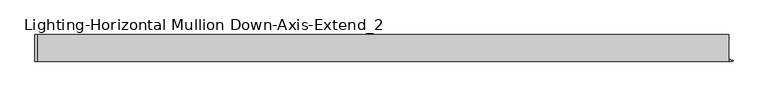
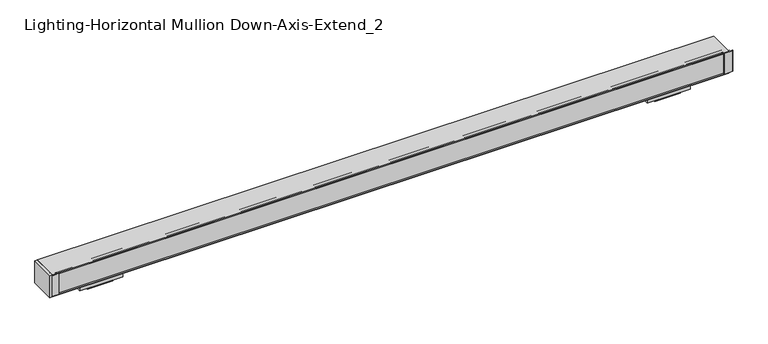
"""IFC4 building model written with IfcOpenShell, lengths in millimetres: light fixture geometry, Lighting-Horizontal Mullion Down-Axis-Extend_2 : EX2WD-900-80-35-SO-4."""

from ifc_helpers import new_model, si_unit, point, frame, frame_2d, origin, place, context, project, spatial, polyline, circle_curve, trimmed, segment, composite_curve, outline, extrude, faceted_brep, source, transform, mapped, element, save


def lighting_horizontal_mullion_down_axis_extend_2_9a33a1cc(model_context):
    return source(origin(), model_context, "Body", "SolidModel", [
        faceted_brep([(-723.98636, 69.4002107, 31.75), (-723.98636, 20.6375, 31.75), (-723.98636, 20.6375, 6.35), (-723.98636, 69.4002107, 6.35), (-842.68564, 69.4002107, 31.75), (-842.68564, 69.4002107, 6.35), (-842.68564, 20.6375, 6.35), (-842.68564, 20.6375, 31.75), (-818.4701591, 64.0180553, 0.0), (-818.4701591, 64.0180553, 6.35), (-748.2018409, 64.0180553, 6.35), (-748.2018409, 64.0180553, 0.0), (-818.4701591, 26.0196553, 0.0), (-748.2018409, 26.0196553, 0.0), (-818.4701591, 26.0196553, 6.35), (-748.2018409, 26.0196553, 6.35)], [[[0, 1, 2, 3]], [[4, 5, 6, 7]], [[8, 9, 10, 11]], [[12, 8, 11, 13]], [[14, 12, 13, 15]], [[1, 0, 4, 7]], [[0, 3, 5, 4]], [[6, 5, 3, 2], [14, 15, 10, 9]], [[6, 2, 1, 7]], [[14, 9, 8, 12]], [[10, 15, 13, 11]]]),
        faceted_brep([(830.50634, 69.4002107, 31.75), (830.50634, 20.6375, 31.75), (830.50634, 20.6375, 6.35), (830.50634, 69.4002107, 6.35), (711.80706, 69.4002107, 31.75), (711.80706, 69.4002107, 6.35), (711.80706, 20.6375, 6.35), (711.80706, 20.6375, 31.75), (736.0225409, 64.0180553, 0.0), (736.0225409, 64.0180553, 6.35), (806.2908591, 64.0180553, 6.35), (806.2908591, 64.0180553, 0.0), (736.0225409, 26.0196553, 0.0), (806.2908591, 26.0196553, 0.0), (736.0225409, 26.0196553, 6.35), (806.2908591, 26.0196553, 6.35)], [[[0, 1, 2, 3]], [[4, 5, 6, 7]], [[8, 9, 10, 11]], [[12, 8, 11, 13]], [[14, 12, 13, 15]], [[1, 0, 4, 7]], [[0, 3, 5, 4]], [[6, 5, 3, 2], [14, 15, 10, 9]], [[6, 2, 1, 7]], [[14, 9, 8, 12]], [[10, 15, 13, 11]]]),
        extrude(outline(polyline([(935.6598, 1.1017139), (934.7352563, 0.0), (912.3781437, 0.0), (911.4536, 1.1017139), (911.4536, 2.57175), (912.24735, 2.57175), (912.24735, 1.778), (918.718, 1.778), (918.718, 4.5842019), (928.3954, 4.5842019), (928.3954, 1.778), (934.86605, 1.778), (934.86605, 2.57175), (935.6598, 2.57175), (935.6598, 1.1017139)])), frame((0.0, 0.0, 33.782), z_axis=(0.0, 0.0, 1.0), x_axis=(1.0, 0.0, 0.0)), (0.0, 0.0, 1.0), 59.944),
        extrude(outline(polyline([(-911.0726, 1.1017139), (-911.9971437, 0.0), (-929.386, 0.0), (-929.386, 4.5842019), (-918.718, 4.5842019), (-918.718, 1.778), (-911.86635, 1.778), (-911.86635, 2.57175), (-911.0726, 2.57175), (-911.0726, 1.1017139)])), frame((0.0, 0.0, 33.782), z_axis=(0.0, 0.0, 1.0), x_axis=(1.0, 0.0, 0.0)), (0.0, 0.0, 1.0), 59.944),
        extrude(outline(polyline([(-929.386, 71.4375), (-929.386, 0.0), (-935.736, 0.0), (-935.736, 71.4375), (-929.386, 71.4375)])), frame((0.0, 0.0, 31.75), z_axis=(0.0, 0.0, 1.0), x_axis=(1.0, 0.0, 0.0)), (0.0, 0.0, 1.0), 64.008),
        extrude(outline(composite_curve([segment(polyline([(4.8895009, 87.9267262), (4.8895009, 39.5812738), (11.3521263, 39.2425819)]), True, "CONTINUOUS"), segment(trimmed(circle_curve(frame_2d((14.351, 36.4998)), 4.064), [point((11.3521263, 39.2425819))], [point((17.9580097, 38.3721186))], False, "CARTESIAN"), True, "CONTINUOUS"), segment(trimmed(circle_curve(frame_2d((17.1691543, 41.604656)), 3.3274001), [point((17.9580097, 38.3721186))], [point((19.4557425, 39.1874044))], True, "CARTESIAN"), True, "CONTINUOUS"), segment(trimmed(circle_curve(frame_2d((12.4214292, 46.6236823)), 10.2362001), [point((19.4557425, 39.1874044))], [point((20.6551445, 40.5420934))], True, "CARTESIAN"), True, "CONTINUOUS"), segment(trimmed(circle_curve(frame_2d((21.3191538, 40.0516427)), 0.8255), [point((20.6551445, 40.5420934))], [point((21.9831631, 39.561192))], False, "CARTESIAN"), True, "CONTINUOUS"), segment(trimmed(circle_curve(frame_2d((12.4214283, 46.6236831)), 11.8872013), [point((21.9831631, 39.561192))], [point((20.5903092, 37.9880048))], False, "CARTESIAN"), True, "CONTINUOUS"), segment(trimmed(circle_curve(frame_2d((17.1691543, 41.604656)), 4.9784001), [point((20.5903092, 37.9880048))], [point((16.75974, 36.6431193))], False, "CARTESIAN"), True, "CONTINUOUS"), segment(trimmed(circle_curve(frame_2d((14.351, 36.4998)), 2.413), [point((16.75974, 36.6431193))], [point((12.7205342, 38.2786059))], True, "CARTESIAN"), True, "CONTINUOUS"), segment(trimmed(circle_curve(frame_2d((11.0042544, 40.1510331)), 2.54), [point((12.7205342, 38.2786059))], [point((10.8713211, 37.6145141))], False, "CARTESIAN"), True, "CONTINUOUS"), segment(polyline([(10.8713211, 37.6145141), (4.8895009, 37.928008), (4.8895009, 34.925), (2.9845, 34.925), (2.9845, 92.583), (4.8895009, 92.583), (4.8895009, 89.579992), (10.8713211, 89.8934859)]), True, "CONTINUOUS"), segment(trimmed(circle_curve(frame_2d((11.0042544, 87.3569669)), 2.54), [point((10.8713211, 89.8934859))], [point((12.7205342, 89.2293941))], False, "CARTESIAN"), True, "CONTINUOUS"), segment(trimmed(circle_curve(frame_2d((14.351, 91.0082)), 2.413), [point((12.7205342, 89.2293941))], [point((16.75974, 90.8648807))], True, "CARTESIAN"), True, "CONTINUOUS"), segment(trimmed(circle_curve(frame_2d((17.1691543, 85.903344)), 4.9784001), [point((16.75974, 90.8648807))], [point((20.5903092, 89.5199952))], False, "CARTESIAN"), True, "CONTINUOUS"), segment(trimmed(circle_curve(frame_2d((12.4214283, 80.8843169)), 11.8872013), [point((20.5903092, 89.5199952))], [point((21.9831631, 87.946808))], False, "CARTESIAN"), True, "CONTINUOUS"), segment(trimmed(circle_curve(frame_2d((21.3191538, 87.4563573)), 0.8255), [point((21.9831631, 87.946808))], [point((20.6551445, 86.9659066))], False, "CARTESIAN"), True, "CONTINUOUS"), segment(trimmed(circle_curve(frame_2d((12.4214292, 80.8843177)), 10.2362001), [point((20.6551445, 86.9659066))], [point((19.4557425, 88.3205956))], True, "CARTESIAN"), True, "CONTINUOUS"), segment(trimmed(circle_curve(frame_2d((17.1691543, 85.903344)), 3.3274001), [point((19.4557425, 88.3205956))], [point((17.9580097, 89.1358814))], True, "CARTESIAN"), True, "CONTINUOUS"), segment(trimmed(circle_curve(frame_2d((14.351, 91.0082)), 4.064), [point((17.9580097, 89.1358814))], [point((11.3521263, 88.2654181))], False, "CARTESIAN"), True, "CONTINUOUS"), segment(polyline([(11.3521263, 88.2654181), (4.8895009, 87.9267262)]), True, "CONTINUOUS")], self_intersect=False)), frame((-914.4, 0.0, 0.0), z_axis=(1.0, 0.0, 0.0), x_axis=(0.0, 1.0, 0.0)), (0.0, 0.0, 1.0), 1828.8),
        extrude(outline(composite_curve([segment(polyline([(14.9098, 93.726), (14.9098, 91.8865797)]), True, "CONTINUOUS"), segment(trimmed(circle_curve(frame_2d((14.9098, 90.3802297)), 1.5063501), [point((14.9098, 91.8865797))], [point((16.2143374, 89.6270546))], False, "CARTESIAN"), True, "CONTINUOUS"), segment(trimmed(circle_curve(frame_2d((14.1511921, 90.8182121)), 2.382315), [point((16.2143374, 89.6270546))], [point((13.9591318, 88.4436516))], False, "CARTESIAN"), True, "CONTINUOUS"), segment(polyline([(13.9591318, 88.4436516), (11.1252, 91.821), (12.8778, 91.821), (12.8778, 93.726), (6.35, 93.726), (6.35, 91.821), (7.874, 91.821), (7.7874748, 90.17), (5.08, 90.17), (5.08, 93.726), (0.0, 93.726), (0.0, 95.758), (71.4375, 95.758), (71.4375, 31.75), (0.0, 31.75), (0.0, 33.782), (5.08, 33.782), (5.08, 37.338), (7.7874748, 37.338), (7.874, 35.687), (6.35, 35.687), (6.35, 33.782), (12.8778, 33.782), (12.8778, 35.687), (11.1252, 35.687), (13.9591318, 39.0643484)]), True, "CONTINUOUS"), segment(trimmed(circle_curve(frame_2d((14.1511921, 36.6897879)), 2.382315), [point((13.9591318, 39.0643484))], [point((16.2143374, 37.8809454))], False, "CARTESIAN"), True, "CONTINUOUS"), segment(trimmed(circle_curve(frame_2d((14.9098, 37.1277703)), 1.5063501), [point((16.2143374, 37.8809454))], [point((14.9098, 35.6214203))], False, "CARTESIAN"), True, "CONTINUOUS"), segment(polyline([(14.9098, 35.6214203), (14.9098, 33.782), (69.4055, 33.782), (69.4055, 93.726), (14.9098, 93.726)]), True, "CONTINUOUS")], self_intersect=False)), frame((-929.386, 0.0, 0.0), z_axis=(1.0, 0.0, 0.0), x_axis=(0.0, 1.0, 0.0)), (0.0, 0.0, 1.0), 1852.9427),
    ])


if __name__ == "__main__":
    model = new_model("IFC4")
    model_context = context("Model", 3, world=origin())
    ifc_project = project(units=[si_unit("LENGTHUNIT", "METRE", prefix="MILLI")], contexts=[model_context])
    site = spatial("IfcSite", under=ifc_project)
    building = spatial("IfcBuilding", under=site)
    placement = place(None, origin())
    lighting_horizontal_mullion_down_axis_extend_2_shape = lighting_horizontal_mullion_down_axis_extend_2_9a33a1cc(model_context)
    element("IfcLightFixture", 1, ObjectType="Lighting-Horizontal Mullion Down-Axis-Extend_2 : EX2WD-900-80-35-SO-4", at=placement, inside=building, context=model_context, shape_type="MappedRepresentation", body=[
        mapped(lighting_horizontal_mullion_down_axis_extend_2_shape, transform((0.0, 0.0, 0.0), x_axis=(1.0, 0.0, 0.0), y_axis=(0.0, 1.0, 0.0), z_axis=(0.0, 0.0, 1.0))),
    ])
    save(model, "model.ifc")
